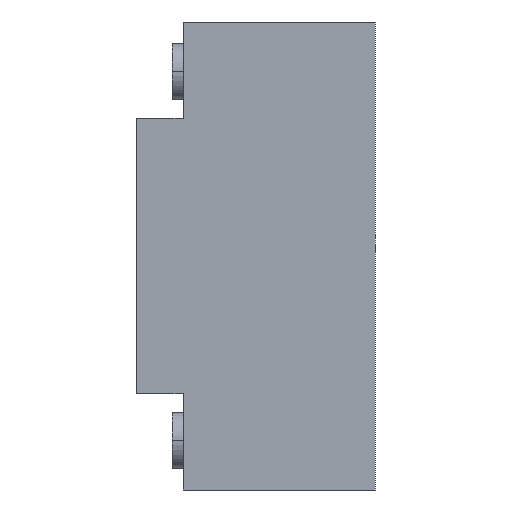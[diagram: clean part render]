
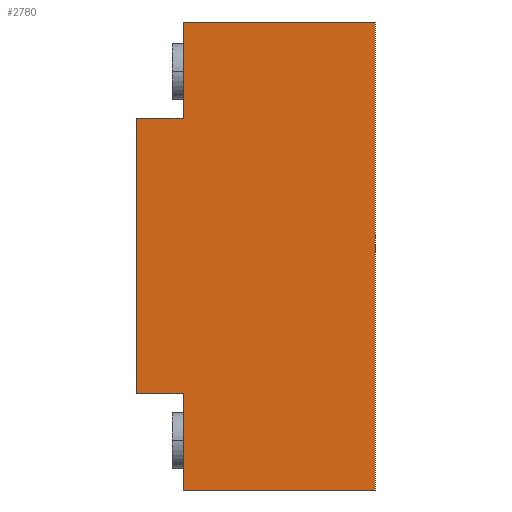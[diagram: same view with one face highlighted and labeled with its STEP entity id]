
A CAD part, left-side view. The second image highlights one B-rep face of the part: STEP entity #2780.
In plain terms, the highlighted planar face has unit normal (-1, 0, 0).
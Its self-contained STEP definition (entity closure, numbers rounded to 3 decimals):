
#1=DIRECTION('',(0.,1.,0.));
#2=VECTOR('',#1,34.9);
#3=CARTESIAN_POINT('',(-188.1,0.,-42.5));
#4=LINE('',#3,#2);
#5=DIRECTION('',(0.,0.,1.));
#6=VECTOR('',#5,17.5);
#7=CARTESIAN_POINT('',(-188.1,34.9,-42.5));
#8=LINE('',#7,#6);
#9=DIRECTION('',(0.,1.,0.));
#10=VECTOR('',#9,8.4);
#11=CARTESIAN_POINT('',(-188.1,34.9,-25.));
#12=LINE('',#11,#10);
#13=DIRECTION('',(0.,0.,1.));
#14=VECTOR('',#13,50.);
#15=CARTESIAN_POINT('',(-188.1,43.3,-25.));
#16=LINE('',#15,#14);
#17=DIRECTION('',(0.,-1.,0.));
#18=VECTOR('',#17,8.4);
#19=CARTESIAN_POINT('',(-188.1,43.3,25.));
#20=LINE('',#19,#18);
#21=DIRECTION('',(0.,0.,1.));
#22=VECTOR('',#21,17.5);
#23=CARTESIAN_POINT('',(-188.1,34.9,25.));
#24=LINE('',#23,#22);
#25=DIRECTION('',(0.,-1.,0.));
#26=VECTOR('',#25,34.9);
#27=CARTESIAN_POINT('',(-188.1,34.9,42.5));
#28=LINE('',#27,#26);
#29=DIRECTION('',(0.,0.,-1.));
#30=VECTOR('',#29,85.);
#31=CARTESIAN_POINT('',(-188.1,0.,42.5));
#32=LINE('',#31,#30);
#2105=CARTESIAN_POINT('',(-188.1,0.,-42.5));
#2106=CARTESIAN_POINT('',(-188.1,34.9,-42.5));
#2107=VERTEX_POINT('',#2105);
#2108=VERTEX_POINT('',#2106);
#2109=CARTESIAN_POINT('',(-188.1,34.9,-25.));
#2110=VERTEX_POINT('',#2109);
#2111=CARTESIAN_POINT('',(-188.1,43.3,-25.));
#2112=VERTEX_POINT('',#2111);
#2113=CARTESIAN_POINT('',(-188.1,43.3,25.));
#2114=VERTEX_POINT('',#2113);
#2115=CARTESIAN_POINT('',(-188.1,34.9,25.));
#2116=VERTEX_POINT('',#2115);
#2117=CARTESIAN_POINT('',(-188.1,34.9,42.5));
#2118=VERTEX_POINT('',#2117);
#2119=CARTESIAN_POINT('',(-188.1,0.,42.5));
#2120=VERTEX_POINT('',#2119);
#2757=CARTESIAN_POINT('',(-188.1,0.,0.));
#2758=DIRECTION('',(1.,0.,0.));
#2759=DIRECTION('',(0.,-1.,0.));
#2760=AXIS2_PLACEMENT_3D('',#2757,#2758,#2759);
#2761=PLANE('',#2760);
#2763=ORIENTED_EDGE('',*,*,#2762,.T.);
#2765=ORIENTED_EDGE('',*,*,#2764,.T.);
#2767=ORIENTED_EDGE('',*,*,#2766,.T.);
#2769=ORIENTED_EDGE('',*,*,#2768,.T.);
#2771=ORIENTED_EDGE('',*,*,#2770,.T.);
#2773=ORIENTED_EDGE('',*,*,#2772,.T.);
#2775=ORIENTED_EDGE('',*,*,#2774,.T.);
#2777=ORIENTED_EDGE('',*,*,#2776,.T.);
#2778=EDGE_LOOP('',(#2763,#2765,#2767,#2769,#2771,#2773,#2775,#2777));
#2779=FACE_OUTER_BOUND('',#2778,.F.);
#2780=ADVANCED_FACE('',(#2779),#2761,.F.);
#2762=EDGE_CURVE('',#2107,#2108,#4,.T.);
#2764=EDGE_CURVE('',#2108,#2110,#8,.T.);
#2766=EDGE_CURVE('',#2110,#2112,#12,.T.);
#2768=EDGE_CURVE('',#2112,#2114,#16,.T.);
#2770=EDGE_CURVE('',#2114,#2116,#20,.T.);
#2772=EDGE_CURVE('',#2116,#2118,#24,.T.);
#2774=EDGE_CURVE('',#2118,#2120,#28,.T.);
#2776=EDGE_CURVE('',#2120,#2107,#32,.T.);
